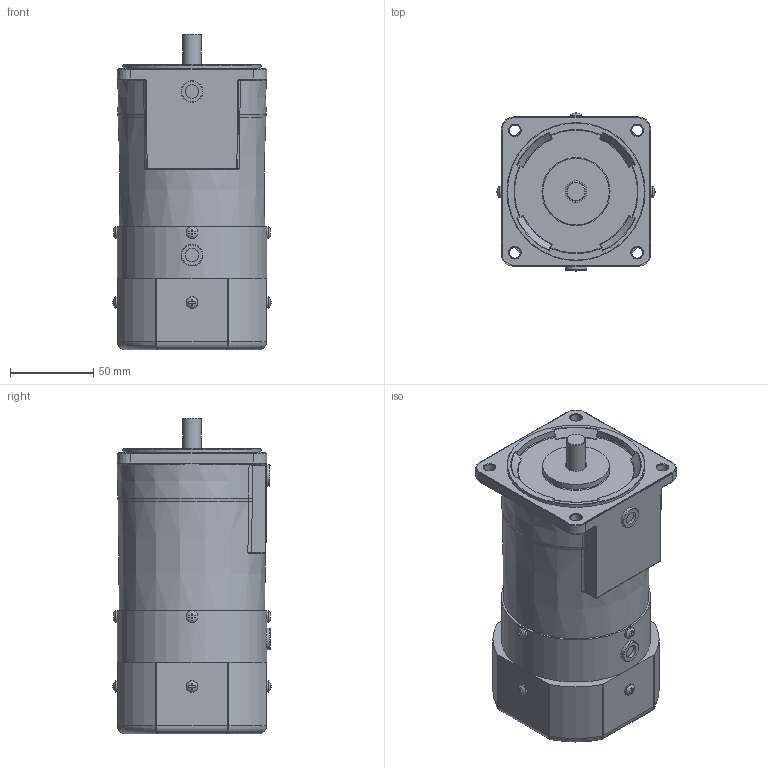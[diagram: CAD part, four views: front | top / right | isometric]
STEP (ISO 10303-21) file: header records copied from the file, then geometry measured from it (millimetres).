
FILE_DESCRIPTION (( 'STEP AP214' ), '1' );
FILE_NAME ('9BDG¤±-60FP.STEP', '2025-01-13T07:47:10', ( '' ), ( '' ), 'SwSTEP 2.0', 'SolidWorks 2024', '' );
FILE_SCHEMA (( 'AUTOMOTIVE_DESIGN' ));
Length unit declared in the file: millimetre
Products named in the file (1): 9BDGㅁ-60FP
Bounding box: 95.09 x 95.09 x 190 mm (x, y, z)
Volume: 1116570.8 mm3; surface area: 71531.1 mm2
Topology: 1 solids, 1 shells, 453 faces, 1149 edges, 720 vertices
Faces by surface type: plane 202, cylinder 145, torus 36, bspline 32, cone 32, sphere 6
Full cylindrical faces by diameter (mm): 6.1 x1, 6.5 x4, 7 x8, 8 x2, 11.39 x1, 13 x3, 40 x1, 83.1 x1, 90 x1
Entity records: 14898 total; most frequent: CARTESIAN_POINT 4459, DIRECTION 2153, ORIENTED_EDGE 2132, EDGE_CURVE 1066, AXIS2_PLACEMENT_3D 829, VERTEX_POINT 703, EDGE_LOOP 549, LINE 495
